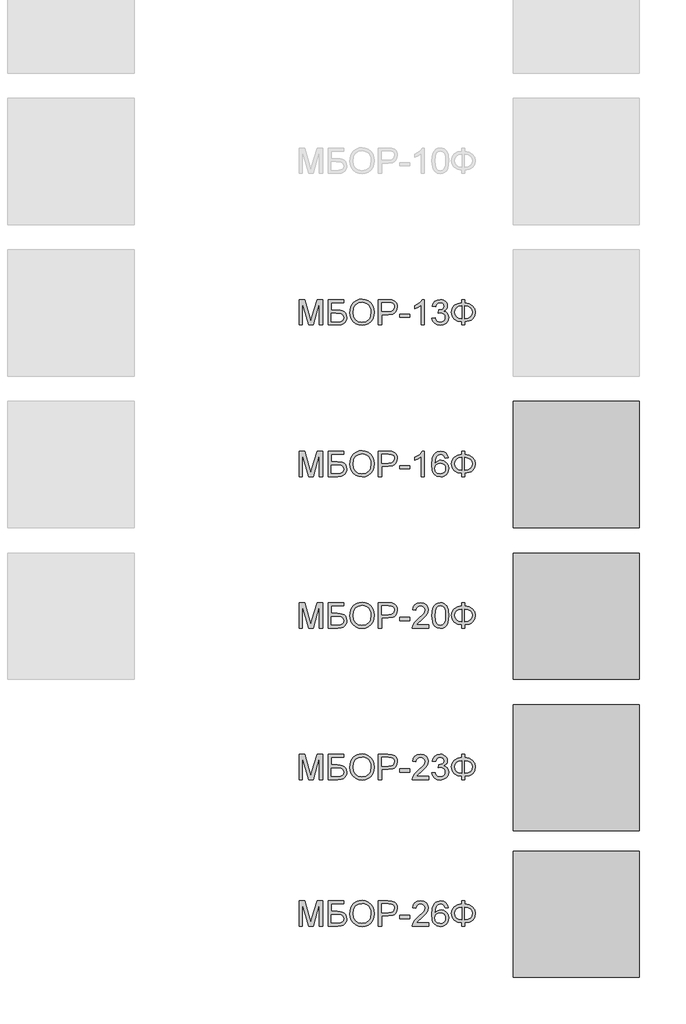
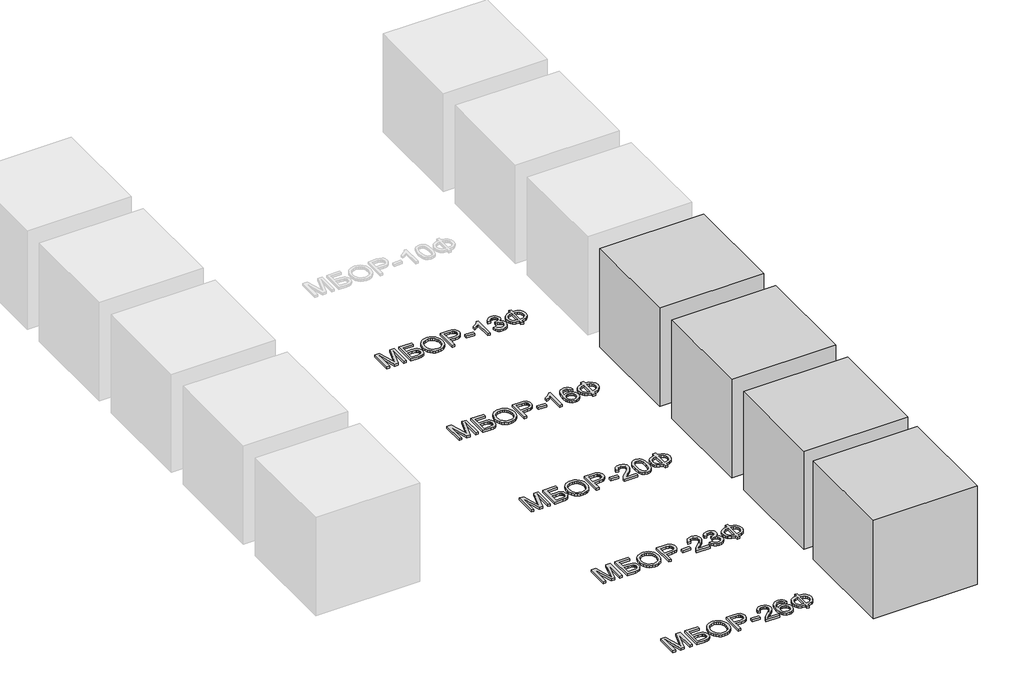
# One storey, part 25 of 35: 9 proxies.
"""IFC4 building model written with IfcOpenShell, lengths in millimetres."""

from ifc_helpers import new_model, si_unit, origin, origin_with_axes, place, context, project, spatial, polyline, outline, extrude, transform, mapped, element, save
from components import generic_models_0168a45e

model = new_model("IFC4")

# Units and contexts
model_context = context("Model", 3, world=origin())
ifc_project = project(units=[si_unit("LENGTHUNIT", "METRE", prefix="MILLI")], contexts=[model_context])

# Site, building, storey
site = spatial("IfcSite", under=ifc_project)
building = spatial("IfcBuilding", under=site)
storey = spatial("IfcBuildingStorey", under=building, Name="Этаж 01", Elevation=0.0)

# Proxies
placement = place(None, origin())
element("IfcBuildingElementProxy", 1, Name="400 мм Arial", ObjectType="400 мм Arial", at=placement, inside=storey, context=model_context, shape_type="SweptSolid", body=[
    extrude(outline(polyline([(15958.3223087, -25810.2364996), (15958.3223087, -25609.3238793), (16001.5361804, -25609.3238793), (16042.640862, -25750.933922), (16050.9304696, -25780.5116344), (16059.9067903, -25748.4813754), (16100.3247588, -25609.3238793), (16143.5386305, -25609.3238793), (16143.5386305, -25810.2364996), (16118.424553, -25810.2364996), (16118.424553, -25634.4379569), (16067.9511433, -25810.2364996), (16033.909796, -25810.2364996), (15983.4363862, -25634.4379569), (15983.4363862, -25810.2364996), (15958.3223087, -25810.2364996)])), origin_with_axes(), (0.0, 0.0, 1.0), 20.0),
    extrude(outline(polyline([(16187.4882662, -25609.3238793), (16313.0586539, -25609.3238793), (16313.0586539, -25634.4379569), (16212.6023438, -25634.4379569), (16212.6023438, -25694.083891), (16259.6421882, -25694.083891), (16283.0272204, -25695.3592153), (16301.0902263, -25699.185188), (16314.9593776, -25706.5550907), (16325.7628455, -25718.4622046), (16332.7158152, -25733.790621), (16335.0334718, -25751.4244313), (16333.3841342, -25766.2316816), (16328.4361213, -25780.0456506), (16320.2139587, -25792.1428368), (16308.7421718, -25801.7997392), (16291.0470479, -25808.1273095), (16264.154874, -25810.2364996), (16187.4882662, -25810.2364996), (16187.4882662, -25609.3238793)]), holes=[polyline([(16212.6023438, -25785.1224221), (16266.4112169, -25785.1224221), (16285.4307161, -25783.0500202), (16299.0300872, -25776.8328145), (16307.1970675, -25766.4708049), (16309.9193942, -25751.9639916), (16308.3620271, -25741.1605237), (16303.6899258, -25732.2945676), (16296.2403154, -25725.7217426), (16286.3504211, -25721.797668), (16248.5076265, -25719.1979686), (16212.6023438, -25719.1979686), (16212.6023438, -25785.1224221)])]), origin_with_axes(), (0.0, 0.0, 1.0), 20.0),
    extrude(outline(polyline([(16360.1475493, -25712.4289398), (16361.8214124, -25688.8630324), (16366.8430016, -25668.0010576), (16375.212317, -25649.8430154), (16386.9293586, -25634.3889059), (16401.2920848, -25622.0495307), (16417.5984542, -25613.2356912), (16435.8484669, -25607.9473875), (16456.0421227, -25606.1846196), (16482.3947363, -25609.4955576), (16506.0250231, -25619.4283715), (16525.6453962, -25635.2840855), (16539.9682685, -25656.3637238), (16548.72386, -25681.6494796), (16551.6423905, -25710.123546), (16548.5705759, -25738.9777572), (16539.3551319, -25764.6191322), (16524.504962, -25785.7355588), (16504.5289697, -25801.0149243), (16481.101018, -25810.2855506), (16455.8949699, -25813.3757593), (16429.1376861, -25809.9605881), (16405.3725092, -25799.7150746), (16385.8011871, -25783.565055), (16371.6254676, -25762.4363657), (16363.0170289, -25738.1254972), (16360.1475493, -25712.4289398)]), holes=[polyline([(16385.2616268, -25712.6741945), (16390.2832161, -25744.1035796), (16405.3479838, -25768.0526975), (16427.9911206, -25783.2094357), (16455.7478171, -25788.2616818), (16483.9091838, -25783.1603848), (16506.5891089, -25767.8564938), (16515.3125107, -25756.5839763), (16521.543512, -25743.1716119), (16526.528313, -25709.9273423), (16524.3945974, -25687.695007), (16517.9934507, -25668.4793042), (16507.4904197, -25652.7646116), (16493.0510514, -25641.0353073), (16475.631839, -25633.7328497), (16456.1892755, -25631.2986972), (16429.1744743, -25635.9891926), (16406.2063751, -25650.0606789), (16397.0430477, -25661.0097668), (16390.4978139, -25675.0950487), (16385.2616268, -25712.6741945)])]), origin_with_axes(), (0.0, 0.0, 1.0), 20.0),
    extrude(outline(polyline([(16586.1742471, -25810.2364996), (16586.1742471, -25609.3238793), (16660.633563, -25609.3238793), (16690.6527338, -25611.2368657), (16715.0555728, -25620.6301193), (16723.9276602, -25628.9565151), (16730.8744986, -25640.0542887), (16735.3626589, -25653.1447563), (16736.8587124, -25667.4492346), (16732.8181418, -25691.1285723), (16720.69643, -25710.85931), (16710.9889439, -25718.6277515), (16698.0287678, -25724.1766382), (16662.3503456, -25728.6157476), (16611.2883247, -25728.6157476), (16611.2883247, -25810.2364996), (16586.1742471, -25810.2364996)]), holes=[polyline([(16611.2883247, -25703.5016701), (16663.8218736, -25703.5016701), (16686.090997, -25701.1962763), (16700.8062768, -25694.2800948), (16709.0100453, -25683.1823212), (16711.7446348, -25668.3321514), (16710.1320854, -25657.0504368), (16705.2944372, -25647.5345559), (16697.832564, -25640.3731197), (16688.3473399, -25636.1547395), (16663.2332624, -25634.4379569), (16611.2883247, -25634.4379569), (16611.2883247, -25703.5016701)])]), origin_with_axes(), (0.0, 0.0, 1.0), 20.0),
    extrude(outline(polyline([(16755.6942705, -25750.5905655), (16755.6942705, -25725.4764879), (16834.1757628, -25725.4764879), (16834.1757628, -25750.5905655), (16755.6942705, -25750.5905655)])), origin_with_axes(), (0.0, 0.0, 1.0), 20.0),
    extrude(outline(polyline([(16950.3283714, -25810.2364996), (16925.2142939, -25810.2364996), (16925.2142939, -25653.6659225), (16901.4245915, -25670.6130197), (16874.9861388, -25683.2926858), (16874.9861388, -25659.5520344), (16911.7988638, -25636.0566377), (16925.2694762, -25622.481792), (16934.1415636, -25609.3238793), (16950.3283714, -25609.3238793), (16950.3283714, -25810.2364996)])), origin_with_axes(), (0.0, 0.0, 1.0), 20.0),
    extrude(outline(polyline([(17009.9743056, -25756.8690849), (17035.0883831, -25753.7298252), (17040.7108463, -25769.5119628), (17048.9452716, -25780.1682779), (17060.1963293, -25786.2383308), (17074.8686895, -25788.2616818), (17092.0855669, -25785.4780414), (17105.3783697, -25777.1271201), (17113.8764438, -25764.6681832), (17116.7091351, -25749.5604959), (17113.9009692, -25735.2192295), (17105.4764715, -25723.588027), (17092.723229, -25715.8808992), (17076.9288287, -25713.3118566), (17059.3195439, -25716.0587089), (17062.115447, -25690.9446313), (17066.1376235, -25691.2389369), (17081.1839971, -25689.4363152), (17094.6362154, -25684.0284498), (17104.1275709, -25674.8804509), (17107.291356, -25661.8574282), (17104.9982249, -25651.0110408), (17098.1188316, -25642.2125297), (17087.621932, -25636.3816001), (17074.4762821, -25634.4379569), (17061.3061066, -25636.3999942), (17050.5394269, -25642.2861061), (17042.679015, -25652.0962926), (17038.2276428, -25665.8305538), (17013.1135653, -25662.6912941), (17020.5079934, -25640.1401278), (17033.6659061, -25623.3033952), (17051.6675984, -25612.8187583), (17073.5933653, -25609.3238793), (17089.3816342, -25611.0467933), (17103.8823162, -25616.2155354), (17116.1082612, -25624.3702529), (17125.0723191, -25635.0510935), (17130.572155, -25647.3567463), (17132.4054336, -25660.3859003), (17130.6641255, -25672.5260061), (17125.4402011, -25683.5379405), (17116.807237, -25692.9189314), (17104.8388094, -25700.1662067), (17120.5596333, -25706.5183025), (17132.2092298, -25717.3340331), (17139.419717, -25732.0247875), (17141.8232127, -25750.0019543), (17137.0162213, -25774.4783697), (17122.595247, -25794.9326086), (17100.8288957, -25808.7649717), (17073.9857727, -25813.3757593), (17049.7055611, -25809.439422), (17029.9380352, -25797.6304099), (17016.1915113, -25779.567404), (17009.9743056, -25756.8690849)])), origin_with_axes(), (0.0, 0.0, 1.0), 20.0),
    extrude(outline(polyline([(17245.4187825, -25634.4379569), (17245.4187825, -25609.3238793), (17270.53286, -25609.3238793), (17270.53286, -25634.4379569), (17304.3718722, -25641.2315111), (17330.2523706, -25657.4918952), (17346.6783017, -25681.0486057), (17352.153612, -25709.7311386), (17346.8499799, -25737.9476876), (17330.9390836, -25761.5779744), (17319.2082465, -25771.0509358), (17305.2302635, -25778.1326642), (17270.53286, -25785.1224221), (17270.53286, -25810.2364996), (17245.4187825, -25810.2364996), (17245.4187825, -25785.1224221), (17213.3272098, -25779.0094496), (17187.0972235, -25763.4173844), (17176.9038266, -25752.4376397), (17169.6228288, -25739.8300171), (17163.7980305, -25709.7311386), (17169.6044347, -25679.5402895), (17176.8624399, -25666.9648566), (17187.0236471, -25656.0694182), (17213.2352393, -25640.6061117), (17245.4187825, -25634.4379569)]), holes=[polyline([(17245.4187825, -25659.5520344), (17222.5671792, -25663.5742109), (17204.5348301, -25673.5806012), (17192.8177886, -25689.1297468), (17188.912108, -25709.7801895), (17192.7687376, -25730.277348), (17204.3386264, -25745.8571505), (17222.3219246, -25755.9555112), (17245.4187825, -25760.0083446), (17245.4187825, -25659.5520344)]), polyline([(17270.53286, -25659.5520344), (17270.53286, -25760.0083446), (17294.0282568, -25755.8574094), (17311.9318472, -25745.7590486), (17323.2626127, -25730.228297), (17327.0395345, -25709.7801895), (17323.3300577, -25689.6079934), (17312.2016274, -25674.1201614), (17294.365482, -25663.9053047), (17270.53286, -25659.5520344)])]), origin_with_axes(), (0.0, 0.0, 1.0), 20.0),
])
element("IfcBuildingElementProxy", 2, Name="400 мм Arial", ObjectType="400 мм Arial", at=placement, inside=storey, context=model_context, shape_type="SweptSolid", body=[
    extrude(outline(polyline([(15958.3223087, -27010.2364996), (15958.3223087, -26809.3238793), (16001.5361804, -26809.3238793), (16042.640862, -26950.933922), (16050.9304696, -26980.5116344), (16059.9067903, -26948.4813754), (16100.3247588, -26809.3238793), (16143.5386305, -26809.3238793), (16143.5386305, -27010.2364996), (16118.424553, -27010.2364996), (16118.424553, -26834.4379569), (16067.9511433, -27010.2364996), (16033.909796, -27010.2364996), (15983.4363862, -26834.4379569), (15983.4363862, -27010.2364996), (15958.3223087, -27010.2364996)])), origin_with_axes(), (0.0, 0.0, 1.0), 20.0),
    extrude(outline(polyline([(16187.4882662, -26809.3238793), (16313.0586539, -26809.3238793), (16313.0586539, -26834.4379569), (16212.6023438, -26834.4379569), (16212.6023438, -26894.083891), (16259.6421882, -26894.083891), (16283.0272204, -26895.3592153), (16301.0902263, -26899.185188), (16314.9593776, -26906.5550907), (16325.7628455, -26918.4622046), (16332.7158152, -26933.790621), (16335.0334718, -26951.4244313), (16333.3841342, -26966.2316816), (16328.4361213, -26980.0456506), (16320.2139587, -26992.1428368), (16308.7421718, -27001.7997392), (16291.0470479, -27008.1273095), (16264.154874, -27010.2364996), (16187.4882662, -27010.2364996), (16187.4882662, -26809.3238793)]), holes=[polyline([(16212.6023438, -26985.1224221), (16266.4112169, -26985.1224221), (16285.4307161, -26983.0500202), (16299.0300872, -26976.8328145), (16307.1970675, -26966.4708049), (16309.9193942, -26951.9639916), (16308.3620271, -26941.1605237), (16303.6899258, -26932.2945676), (16296.2403154, -26925.7217426), (16286.3504211, -26921.797668), (16248.5076265, -26919.1979686), (16212.6023438, -26919.1979686), (16212.6023438, -26985.1224221)])]), origin_with_axes(), (0.0, 0.0, 1.0), 20.0),
    extrude(outline(polyline([(16360.1475493, -26912.4289398), (16361.8214124, -26888.8630324), (16366.8430016, -26868.0010576), (16375.212317, -26849.8430154), (16386.9293586, -26834.3889059), (16401.2920848, -26822.0495307), (16417.5984542, -26813.2356912), (16435.8484669, -26807.9473875), (16456.0421227, -26806.1846196), (16482.3947363, -26809.4955576), (16506.0250231, -26819.4283715), (16525.6453962, -26835.2840855), (16539.9682685, -26856.3637238), (16548.72386, -26881.6494796), (16551.6423905, -26910.123546), (16548.5705759, -26938.9777572), (16539.3551319, -26964.6191322), (16524.504962, -26985.7355588), (16504.5289697, -27001.0149243), (16481.101018, -27010.2855506), (16455.8949699, -27013.3757593), (16429.1376861, -27009.9605881), (16405.3725092, -26999.7150746), (16385.8011871, -26983.565055), (16371.6254676, -26962.4363657), (16363.0170289, -26938.1254972), (16360.1475493, -26912.4289398)]), holes=[polyline([(16385.2616268, -26912.6741945), (16390.2832161, -26944.1035796), (16405.3479838, -26968.0526975), (16427.9911206, -26983.2094357), (16455.7478171, -26988.2616818), (16483.9091838, -26983.1603848), (16506.5891089, -26967.8564938), (16515.3125107, -26956.5839763), (16521.543512, -26943.1716119), (16526.528313, -26909.9273423), (16524.3945974, -26887.695007), (16517.9934507, -26868.4793042), (16507.4904197, -26852.7646116), (16493.0510514, -26841.0353073), (16475.631839, -26833.7328497), (16456.1892755, -26831.2986972), (16429.1744743, -26835.9891926), (16406.2063751, -26850.0606789), (16397.0430477, -26861.0097668), (16390.4978139, -26875.0950487), (16385.2616268, -26912.6741945)])]), origin_with_axes(), (0.0, 0.0, 1.0), 20.0),
    extrude(outline(polyline([(16586.1742471, -27010.2364996), (16586.1742471, -26809.3238793), (16660.633563, -26809.3238793), (16690.6527338, -26811.2368657), (16715.0555728, -26820.6301193), (16723.9276602, -26828.9565151), (16730.8744986, -26840.0542887), (16735.3626589, -26853.1447563), (16736.8587124, -26867.4492346), (16732.8181418, -26891.1285723), (16720.69643, -26910.85931), (16710.9889439, -26918.6277515), (16698.0287678, -26924.1766382), (16662.3503456, -26928.6157476), (16611.2883247, -26928.6157476), (16611.2883247, -27010.2364996), (16586.1742471, -27010.2364996)]), holes=[polyline([(16611.2883247, -26903.5016701), (16663.8218736, -26903.5016701), (16686.090997, -26901.1962763), (16700.8062768, -26894.2800948), (16709.0100453, -26883.1823212), (16711.7446348, -26868.3321514), (16710.1320854, -26857.0504368), (16705.2944372, -26847.5345559), (16697.832564, -26840.3731197), (16688.3473399, -26836.1547395), (16663.2332624, -26834.4379569), (16611.2883247, -26834.4379569), (16611.2883247, -26903.5016701)])]), origin_with_axes(), (0.0, 0.0, 1.0), 20.0),
    extrude(outline(polyline([(16755.6942705, -26950.5905655), (16755.6942705, -26925.4764879), (16834.1757628, -26925.4764879), (16834.1757628, -26950.5905655), (16755.6942705, -26950.5905655)])), origin_with_axes(), (0.0, 0.0, 1.0), 20.0),
    extrude(outline(polyline([(16950.3283714, -27010.2364996), (16925.2142939, -27010.2364996), (16925.2142939, -26853.6659225), (16901.4245915, -26870.6130197), (16874.9861388, -26883.2926858), (16874.9861388, -26859.5520344), (16911.7988638, -26836.0566377), (16925.2694762, -26822.481792), (16934.1415636, -26809.3238793), (16950.3283714, -26809.3238793), (16950.3283714, -27010.2364996)])), origin_with_axes(), (0.0, 0.0, 1.0), 20.0),
    extrude(outline(polyline([(17138.683953, -26862.6912941), (17113.5698754, -26865.8305538), (17104.0539945, -26844.8858055), (17092.6619154, -26837.049919), (17078.890866, -26834.4379569), (17056.2293351, -26840.5202725), (17046.7931619, -26850.128124), (17039.0860341, -26863.3534817), (17033.8805039, -26882.0602811), (17031.9491234, -26908.1124578), (17042.0229587, -26896.358628), (17054.0956195, -26888.0751518), (17067.4926555, -26883.1639271), (17081.5396164, -26881.5268523), (17104.7407075, -26886.0027499), (17124.2139278, -26899.4304427), (17137.4208914, -26919.9459953), (17141.8232127, -26945.6854722), (17139.7508107, -26963.6687704), (17133.533605, -26980.3399562), (17123.6866303, -26994.4788875), (17110.7249213, -27004.8654225), (17095.2370893, -27011.2481751), (17077.8117455, -27013.3757593), (17049.319285, -27007.7349021), (17026.6270972, -26990.8123303), (17017.9680748, -26977.7034685), (17011.7830587, -26960.9403123), (17006.8350459, -26916.4511163), (17012.3287504, -26866.4314277), (17019.1958809, -26847.3536806), (17028.8098637, -26832.2306649), (17039.2301213, -26822.2089462), (17051.3119791, -26815.0505757), (17080.4604959, -26809.3238793), (17102.4966274, -26812.8678092), (17120.1427004, -26823.4995989), (17132.5035354, -26840.3853825), (17138.683953, -26862.6912941)]), holes=[polyline([(17031.9491234, -26945.2930648), (17037.761659, -26967.0471534), (17053.2127028, -26982.8415537), (17075.8497082, -26988.2616818), (17092.4227921, -26985.4535159), (17105.4519461, -26977.0290182), (17113.8948379, -26963.7852664), (17116.7091351, -26946.5193381), (17113.9316261, -26929.9462542), (17105.5990989, -26917.3095077), (17092.3492157, -26909.3080743), (17074.8196386, -26906.6409298), (17058.2710802, -26909.3080743), (17044.4325858, -26917.3095077), (17035.069989, -26929.6396859), (17031.9491234, -26945.2930648)])]), origin_with_axes(), (0.0, 0.0, 1.0), 20.0),
    extrude(outline(polyline([(17245.4187825, -26834.4379569), (17245.4187825, -26809.3238793), (17270.53286, -26809.3238793), (17270.53286, -26834.4379569), (17304.3718722, -26841.2315111), (17330.2523706, -26857.4918952), (17346.6783017, -26881.0486057), (17352.153612, -26909.7311386), (17346.8499799, -26937.9476876), (17330.9390836, -26961.5779744), (17319.2082465, -26971.0509358), (17305.2302635, -26978.1326642), (17270.53286, -26985.1224221), (17270.53286, -27010.2364996), (17245.4187825, -27010.2364996), (17245.4187825, -26985.1224221), (17213.3272098, -26979.0094496), (17187.0972235, -26963.4173844), (17176.9038266, -26952.4376397), (17169.6228288, -26939.8300171), (17163.7980305, -26909.7311386), (17169.6044347, -26879.5402895), (17176.8624399, -26866.9648566), (17187.0236471, -26856.0694182), (17213.2352393, -26840.6061117), (17245.4187825, -26834.4379569)]), holes=[polyline([(17245.4187825, -26859.5520344), (17222.5671792, -26863.5742109), (17204.5348301, -26873.5806012), (17192.8177886, -26889.1297468), (17188.912108, -26909.7801895), (17192.7687376, -26930.277348), (17204.3386264, -26945.8571505), (17222.3219246, -26955.9555112), (17245.4187825, -26960.0083446), (17245.4187825, -26859.5520344)]), polyline([(17270.53286, -26859.5520344), (17270.53286, -26960.0083446), (17294.0282568, -26955.8574094), (17311.9318472, -26945.7590486), (17323.2626127, -26930.228297), (17327.0395345, -26909.7801895), (17323.3300577, -26889.6079934), (17312.2016274, -26874.1201614), (17294.365482, -26863.9053047), (17270.53286, -26859.5520344)])]), origin_with_axes(), (0.0, 0.0, 1.0), 20.0),
])
element("IfcBuildingElementProxy", 3, Name="400 мм Arial", ObjectType="400 мм Arial", at=placement, inside=storey, context=model_context, shape_type="SweptSolid", body=[
    extrude(outline(polyline([(15958.3223087, -28210.2364996), (15958.3223087, -28009.3238793), (16001.5361804, -28009.3238793), (16042.640862, -28150.933922), (16050.9304696, -28180.5116344), (16059.9067903, -28148.4813754), (16100.3247588, -28009.3238793), (16143.5386305, -28009.3238793), (16143.5386305, -28210.2364996), (16118.424553, -28210.2364996), (16118.424553, -28034.4379569), (16067.9511433, -28210.2364996), (16033.909796, -28210.2364996), (15983.4363862, -28034.4379569), (15983.4363862, -28210.2364996), (15958.3223087, -28210.2364996)])), origin_with_axes(), (0.0, 0.0, 1.0), 20.0),
    extrude(outline(polyline([(16187.4882662, -28009.3238793), (16313.0586539, -28009.3238793), (16313.0586539, -28034.4379569), (16212.6023438, -28034.4379569), (16212.6023438, -28094.083891), (16259.6421882, -28094.083891), (16283.0272204, -28095.3592153), (16301.0902263, -28099.185188), (16314.9593776, -28106.5550907), (16325.7628455, -28118.4622046), (16332.7158152, -28133.790621), (16335.0334718, -28151.4244313), (16333.3841342, -28166.2316816), (16328.4361213, -28180.0456506), (16320.2139587, -28192.1428368), (16308.7421718, -28201.7997392), (16291.0470479, -28208.1273095), (16264.154874, -28210.2364996), (16187.4882662, -28210.2364996), (16187.4882662, -28009.3238793)]), holes=[polyline([(16212.6023438, -28185.1224221), (16266.4112169, -28185.1224221), (16285.4307161, -28183.0500202), (16299.0300872, -28176.8328145), (16307.1970675, -28166.4708049), (16309.9193942, -28151.9639916), (16308.3620271, -28141.1605237), (16303.6899258, -28132.2945676), (16296.2403154, -28125.7217426), (16286.3504211, -28121.797668), (16248.5076265, -28119.1979686), (16212.6023438, -28119.1979686), (16212.6023438, -28185.1224221)])]), origin_with_axes(), (0.0, 0.0, 1.0), 20.0),
    extrude(outline(polyline([(16360.1475493, -28112.4289398), (16361.8214124, -28088.8630324), (16366.8430016, -28068.0010576), (16375.212317, -28049.8430154), (16386.9293586, -28034.3889059), (16401.2920848, -28022.0495307), (16417.5984542, -28013.2356912), (16435.8484669, -28007.9473875), (16456.0421227, -28006.1846196), (16482.3947363, -28009.4955576), (16506.0250231, -28019.4283715), (16525.6453962, -28035.2840855), (16539.9682685, -28056.3637238), (16548.72386, -28081.6494796), (16551.6423905, -28110.123546), (16548.5705759, -28138.9777572), (16539.3551319, -28164.6191322), (16524.504962, -28185.7355588), (16504.5289697, -28201.0149243), (16481.101018, -28210.2855506), (16455.8949699, -28213.3757593), (16429.1376861, -28209.9605881), (16405.3725092, -28199.7150746), (16385.8011871, -28183.565055), (16371.6254676, -28162.4363657), (16363.0170289, -28138.1254972), (16360.1475493, -28112.4289398)]), holes=[polyline([(16385.2616268, -28112.6741945), (16390.2832161, -28144.1035796), (16405.3479838, -28168.0526975), (16427.9911206, -28183.2094357), (16455.7478171, -28188.2616818), (16483.9091838, -28183.1603848), (16506.5891089, -28167.8564938), (16515.3125107, -28156.5839763), (16521.543512, -28143.1716119), (16526.528313, -28109.9273423), (16524.3945974, -28087.695007), (16517.9934507, -28068.4793042), (16507.4904197, -28052.7646116), (16493.0510514, -28041.0353073), (16475.631839, -28033.7328497), (16456.1892755, -28031.2986972), (16429.1744743, -28035.9891926), (16406.2063751, -28050.0606789), (16397.0430477, -28061.0097668), (16390.4978139, -28075.0950487), (16385.2616268, -28112.6741945)])]), origin_with_axes(), (0.0, 0.0, 1.0), 20.0),
    extrude(outline(polyline([(16586.1742471, -28210.2364996), (16586.1742471, -28009.3238793), (16660.633563, -28009.3238793), (16690.6527338, -28011.2368657), (16715.0555728, -28020.6301193), (16723.9276602, -28028.9565151), (16730.8744986, -28040.0542887), (16735.3626589, -28053.1447563), (16736.8587124, -28067.4492346), (16732.8181418, -28091.1285723), (16720.69643, -28110.85931), (16710.9889439, -28118.6277515), (16698.0287678, -28124.1766382), (16662.3503456, -28128.6157476), (16611.2883247, -28128.6157476), (16611.2883247, -28210.2364996), (16586.1742471, -28210.2364996)]), holes=[polyline([(16611.2883247, -28103.5016701), (16663.8218736, -28103.5016701), (16686.090997, -28101.1962763), (16700.8062768, -28094.2800948), (16709.0100453, -28083.1823212), (16711.7446348, -28068.3321514), (16710.1320854, -28057.0504368), (16705.2944372, -28047.5345559), (16697.832564, -28040.3731197), (16688.3473399, -28036.1547395), (16663.2332624, -28034.4379569), (16611.2883247, -28034.4379569), (16611.2883247, -28103.5016701)])]), origin_with_axes(), (0.0, 0.0, 1.0), 20.0),
    extrude(outline(polyline([(16755.6942705, -28150.5905655), (16755.6942705, -28125.4764879), (16834.1757628, -28125.4764879), (16834.1757628, -28150.5905655), (16755.6942705, -28150.5905655)])), origin_with_axes(), (0.0, 0.0, 1.0), 20.0),
    extrude(outline(polyline([(16984.860228, -28185.1224221), (16984.860228, -28210.2364996), (16853.011321, -28210.2364996), (16855.7091223, -28192.9215204), (16870.9639623, -28166.2623385), (16902.4056102, -28137.1506099), (16945.7666347, -28095.3101643), (16953.8968268, -28080.8891901), (16956.6068908, -28066.8606234), (16954.050111, -28054.2851905), (16946.3797714, -28043.8312105), (16934.5891534, -28036.7862703), (16919.6715385, -28034.4379569), (16904.0058969, -28036.731088), (16891.8351342, -28043.6104813), (16883.9808536, -28054.5365765), (16881.2646582, -28068.9698135), (16856.1505807, -28065.8305538), (16862.2390277, -28041.5380794), (16875.4030717, -28023.7939045), (16894.9559998, -28012.9413856), (16920.2110988, -28009.3238793), (16945.6501387, -28013.3460558), (16965.1662786, -28025.4125853), (16977.5822959, -28043.438803), (16981.7209684, -28065.3400445), (16977.2573335, -28089.1542723), (16962.4194263, -28113.7778405), (16926.4405672, -28148.1870698), (16897.5495679, -28172.3446541), (16886.2188024, -28185.1224221), (16984.860228, -28185.1224221)])), origin_with_axes(), (0.0, 0.0, 1.0), 20.0),
    extrude(outline(polyline([(17009.9743056, -28111.3988703), (17011.8198469, -28079.2398525), (17017.356471, -28053.5923461), (17026.5289954, -28034.0639435), (17039.2822379, -28020.2622373), (17055.708169, -28012.0584688), (17075.8987591, -28009.3238793), (17091.3743284, -28010.9425601), (17105.2312169, -28015.7986025), (17116.8194997, -28023.701934), (17125.4892521, -28034.4624823), (17137.2614759, -28064.1873475), (17141.8232127, -28111.3988703), (17139.9960654, -28143.373947), (17134.5146237, -28168.9601398), (17125.3972816, -28188.5069365), (17112.6624332, -28202.3638249), (17096.1997139, -28210.6227757), (17075.8987591, -28213.3757593), (17049.8036629, -28208.5932934), (17029.9870861, -28194.2458956), (17021.2314946, -28179.1167485), (17014.9775007, -28160.265862), (17009.9743056, -28111.3988703)]), holes=[polyline([(17035.0883831, -28111.3498193), (17038.0314391, -28150.8542142), (17046.860607, -28173.7180802), (17060.0062569, -28184.6257814), (17075.8987591, -28188.2616818), (17091.7912613, -28184.6135187), (17104.9369113, -28173.6690293), (17113.7660792, -28150.7929006), (17116.7091351, -28111.3498193), (17113.864181, -28072.7344726), (17105.3293187, -28049.6927969), (17092.2081942, -28038.2516669), (17075.6044535, -28034.4379569), (17059.8836296, -28037.7979458), (17047.2530144, -28047.8779124), (17038.1295409, -28072.3543278), (17035.0883831, -28111.3498193)])]), origin_with_axes(), (0.0, 0.0, 1.0), 20.0),
    extrude(outline(polyline([(17245.4187825, -28034.4379569), (17245.4187825, -28009.3238793), (17270.53286, -28009.3238793), (17270.53286, -28034.4379569), (17304.3718722, -28041.2315111), (17330.2523706, -28057.4918952), (17346.6783017, -28081.0486057), (17352.153612, -28109.7311386), (17346.8499799, -28137.9476876), (17330.9390836, -28161.5779744), (17319.2082465, -28171.0509358), (17305.2302635, -28178.1326642), (17270.53286, -28185.1224221), (17270.53286, -28210.2364996), (17245.4187825, -28210.2364996), (17245.4187825, -28185.1224221), (17213.3272098, -28179.0094496), (17187.0972235, -28163.4173844), (17176.9038266, -28152.4376397), (17169.6228288, -28139.8300171), (17163.7980305, -28109.7311386), (17169.6044347, -28079.5402895), (17176.8624399, -28066.9648566), (17187.0236471, -28056.0694182), (17213.2352393, -28040.6061117), (17245.4187825, -28034.4379569)]), holes=[polyline([(17270.53286, -28059.5520344), (17270.53286, -28160.0083446), (17294.0282568, -28155.8574094), (17311.9318472, -28145.7590486), (17323.2626127, -28130.228297), (17327.0395345, -28109.7801895), (17323.3300577, -28089.6079934), (17312.2016274, -28074.1201614), (17294.365482, -28063.9053047), (17270.53286, -28059.5520344)]), polyline([(17245.4187825, -28059.5520344), (17222.5671792, -28063.5742109), (17204.5348301, -28073.5806012), (17192.8177886, -28089.1297468), (17188.912108, -28109.7801895), (17192.7687376, -28130.277348), (17204.3386264, -28145.8571505), (17222.3219246, -28155.9555112), (17245.4187825, -28160.0083446), (17245.4187825, -28059.5520344)])]), origin_with_axes(), (0.0, 0.0, 1.0), 20.0),
])
element("IfcBuildingElementProxy", 4, Name="400 мм Arial", ObjectType="400 мм Arial", at=placement, inside=storey, context=model_context, shape_type="SweptSolid", body=[
    extrude(outline(polyline([(15958.3223087, -29410.2364996), (15958.3223087, -29209.3238793), (16001.5361804, -29209.3238793), (16042.640862, -29350.933922), (16050.9304696, -29380.5116344), (16059.9067903, -29348.4813754), (16100.3247588, -29209.3238793), (16143.5386305, -29209.3238793), (16143.5386305, -29410.2364996), (16118.424553, -29410.2364996), (16118.424553, -29234.4379569), (16067.9511433, -29410.2364996), (16033.909796, -29410.2364996), (15983.4363862, -29234.4379569), (15983.4363862, -29410.2364996), (15958.3223087, -29410.2364996)])), origin_with_axes(), (0.0, 0.0, 1.0), 20.0),
    extrude(outline(polyline([(16187.4882662, -29209.3238793), (16313.0586539, -29209.3238793), (16313.0586539, -29234.4379569), (16212.6023438, -29234.4379569), (16212.6023438, -29294.083891), (16259.6421882, -29294.083891), (16283.0272204, -29295.3592153), (16301.0902263, -29299.185188), (16314.9593776, -29306.5550907), (16325.7628455, -29318.4622046), (16332.7158152, -29333.790621), (16335.0334718, -29351.4244313), (16333.3841342, -29366.2316816), (16328.4361213, -29380.0456506), (16320.2139587, -29392.1428368), (16308.7421718, -29401.7997392), (16291.0470479, -29408.1273095), (16264.154874, -29410.2364996), (16187.4882662, -29410.2364996), (16187.4882662, -29209.3238793)]), holes=[polyline([(16212.6023438, -29385.1224221), (16266.4112169, -29385.1224221), (16285.4307161, -29383.0500202), (16299.0300872, -29376.8328145), (16307.1970675, -29366.4708049), (16309.9193942, -29351.9639916), (16308.3620271, -29341.1605237), (16303.6899258, -29332.2945676), (16296.2403154, -29325.7217426), (16286.3504211, -29321.797668), (16248.5076265, -29319.1979686), (16212.6023438, -29319.1979686), (16212.6023438, -29385.1224221)])]), origin_with_axes(), (0.0, 0.0, 1.0), 20.0),
    extrude(outline(polyline([(16360.1475493, -29312.4289398), (16361.8214124, -29288.8630324), (16366.8430016, -29268.0010576), (16375.212317, -29249.8430154), (16386.9293586, -29234.3889059), (16401.2920848, -29222.0495307), (16417.5984542, -29213.2356912), (16435.8484669, -29207.9473875), (16456.0421227, -29206.1846196), (16482.3947363, -29209.4955576), (16506.0250231, -29219.4283715), (16525.6453962, -29235.2840855), (16539.9682685, -29256.3637238), (16548.72386, -29281.6494796), (16551.6423905, -29310.123546), (16548.5705759, -29338.9777572), (16539.3551319, -29364.6191322), (16524.504962, -29385.7355588), (16504.5289697, -29401.0149243), (16481.101018, -29410.2855506), (16455.8949699, -29413.3757593), (16429.1376861, -29409.9605881), (16405.3725092, -29399.7150746), (16385.8011871, -29383.565055), (16371.6254676, -29362.4363657), (16363.0170289, -29338.1254972), (16360.1475493, -29312.4289398)]), holes=[polyline([(16385.2616268, -29312.6741945), (16390.2832161, -29344.1035796), (16405.3479838, -29368.0526975), (16427.9911206, -29383.2094357), (16455.7478171, -29388.2616818), (16483.9091838, -29383.1603848), (16506.5891089, -29367.8564938), (16515.3125107, -29356.5839763), (16521.543512, -29343.1716119), (16526.528313, -29309.9273423), (16524.3945974, -29287.695007), (16517.9934507, -29268.4793042), (16507.4904197, -29252.7646116), (16493.0510514, -29241.0353073), (16475.631839, -29233.7328497), (16456.1892755, -29231.2986972), (16429.1744743, -29235.9891926), (16406.2063751, -29250.0606789), (16397.0430477, -29261.0097668), (16390.4978139, -29275.0950487), (16385.2616268, -29312.6741945)])]), origin_with_axes(), (0.0, 0.0, 1.0), 20.0),
    extrude(outline(polyline([(16586.1742471, -29410.2364996), (16586.1742471, -29209.3238793), (16660.633563, -29209.3238793), (16690.6527338, -29211.2368657), (16715.0555728, -29220.6301193), (16723.9276602, -29228.9565151), (16730.8744986, -29240.0542887), (16735.3626589, -29253.1447563), (16736.8587124, -29267.4492346), (16732.8181418, -29291.1285723), (16720.69643, -29310.85931), (16710.9889439, -29318.6277515), (16698.0287678, -29324.1766382), (16662.3503456, -29328.6157476), (16611.2883247, -29328.6157476), (16611.2883247, -29410.2364996), (16586.1742471, -29410.2364996)]), holes=[polyline([(16611.2883247, -29303.5016701), (16663.8218736, -29303.5016701), (16686.090997, -29301.1962763), (16700.8062768, -29294.2800948), (16709.0100453, -29283.1823212), (16711.7446348, -29268.3321514), (16710.1320854, -29257.0504368), (16705.2944372, -29247.5345559), (16697.832564, -29240.3731197), (16688.3473399, -29236.1547395), (16663.2332624, -29234.4379569), (16611.2883247, -29234.4379569), (16611.2883247, -29303.5016701)])]), origin_with_axes(), (0.0, 0.0, 1.0), 20.0),
    extrude(outline(polyline([(16755.6942705, -29350.5905655), (16755.6942705, -29325.4764879), (16834.1757628, -29325.4764879), (16834.1757628, -29350.5905655), (16755.6942705, -29350.5905655)])), origin_with_axes(), (0.0, 0.0, 1.0), 20.0),
    extrude(outline(polyline([(16984.860228, -29385.1224221), (16984.860228, -29410.2364996), (16853.011321, -29410.2364996), (16855.7091223, -29392.9215204), (16870.9639623, -29366.2623385), (16902.4056102, -29337.1506099), (16945.7666347, -29295.3101643), (16953.8968268, -29280.8891901), (16956.6068908, -29266.8606234), (16954.050111, -29254.2851905), (16946.3797714, -29243.8312105), (16934.5891534, -29236.7862703), (16919.6715385, -29234.4379569), (16904.0058969, -29236.731088), (16891.8351342, -29243.6104813), (16883.9808536, -29254.5365765), (16881.2646582, -29268.9698135), (16856.1505807, -29265.8305538), (16862.2390277, -29241.5380794), (16875.4030717, -29223.7939045), (16894.9559998, -29212.9413856), (16920.2110988, -29209.3238793), (16945.6501387, -29213.3460558), (16965.1662786, -29225.4125853), (16977.5822959, -29243.438803), (16981.7209684, -29265.3400445), (16977.2573335, -29289.1542723), (16962.4194263, -29313.7778405), (16926.4405672, -29348.1870698), (16897.5495679, -29372.3446541), (16886.2188024, -29385.1224221), (16984.860228, -29385.1224221)])), origin_with_axes(), (0.0, 0.0, 1.0), 20.0),
    extrude(outline(polyline([(17009.9743056, -29356.8690849), (17035.0883831, -29353.7298252), (17040.7108463, -29369.5119628), (17048.9452716, -29380.1682779), (17060.1963293, -29386.2383308), (17074.8686895, -29388.2616818), (17092.0855669, -29385.4780414), (17105.3783697, -29377.1271201), (17113.8764438, -29364.6681832), (17116.7091351, -29349.5604959), (17113.9009692, -29335.2192295), (17105.4764715, -29323.588027), (17092.723229, -29315.8808992), (17076.9288287, -29313.3118566), (17059.3195439, -29316.0587089), (17062.115447, -29290.9446313), (17066.1376235, -29291.2389369), (17081.1839971, -29289.4363152), (17094.6362154, -29284.0284498), (17104.1275709, -29274.8804509), (17107.291356, -29261.8574282), (17104.9982249, -29251.0110408), (17098.1188316, -29242.2125297), (17087.621932, -29236.3816001), (17074.4762821, -29234.4379569), (17061.3061066, -29236.3999942), (17050.5394269, -29242.2861061), (17042.679015, -29252.0962926), (17038.2276428, -29265.8305538), (17013.1135653, -29262.6912941), (17020.5079934, -29240.1401278), (17033.6659061, -29223.3033952), (17051.6675984, -29212.8187583), (17073.5933653, -29209.3238793), (17089.3816342, -29211.0467933), (17103.8823162, -29216.2155354), (17116.1082612, -29224.3702529), (17125.0723191, -29235.0510935), (17130.572155, -29247.3567463), (17132.4054336, -29260.3859003), (17130.6641255, -29272.5260061), (17125.4402011, -29283.5379405), (17116.807237, -29292.9189314), (17104.8388094, -29300.1662067), (17120.5596333, -29306.5183025), (17132.2092298, -29317.3340331), (17139.419717, -29332.0247875), (17141.8232127, -29350.0019543), (17137.0162213, -29374.4783697), (17122.595247, -29394.9326086), (17100.8288957, -29408.7649717), (17073.9857727, -29413.3757593), (17049.7055611, -29409.439422), (17029.9380352, -29397.6304099), (17016.1915113, -29379.567404), (17009.9743056, -29356.8690849)])), origin_with_axes(), (0.0, 0.0, 1.0), 20.0),
    extrude(outline(polyline([(17245.4187825, -29234.4379569), (17245.4187825, -29209.3238793), (17270.53286, -29209.3238793), (17270.53286, -29234.4379569), (17304.3718722, -29241.2315111), (17330.2523706, -29257.4918952), (17346.6783017, -29281.0486057), (17352.153612, -29309.7311386), (17346.8499799, -29337.9476876), (17330.9390836, -29361.5779744), (17319.2082465, -29371.0509358), (17305.2302635, -29378.1326642), (17270.53286, -29385.1224221), (17270.53286, -29410.2364996), (17245.4187825, -29410.2364996), (17245.4187825, -29385.1224221), (17213.3272098, -29379.0094496), (17187.0972235, -29363.4173844), (17176.9038266, -29352.4376397), (17169.6228288, -29339.8300171), (17163.7980305, -29309.7311386), (17169.6044347, -29279.5402895), (17176.8624399, -29266.9648566), (17187.0236471, -29256.0694182), (17213.2352393, -29240.6061117), (17245.4187825, -29234.4379569)]), holes=[polyline([(17270.53286, -29259.5520344), (17270.53286, -29360.0083446), (17294.0282568, -29355.8574094), (17311.9318472, -29345.7590486), (17323.2626127, -29330.228297), (17327.0395345, -29309.7801895), (17323.3300577, -29289.6079934), (17312.2016274, -29274.1201614), (17294.365482, -29263.9053047), (17270.53286, -29259.5520344)]), polyline([(17245.4187825, -29259.5520344), (17222.5671792, -29263.5742109), (17204.5348301, -29273.5806012), (17192.8177886, -29289.1297468), (17188.912108, -29309.7801895), (17192.7687376, -29330.277348), (17204.3386264, -29345.8571505), (17222.3219246, -29355.9555112), (17245.4187825, -29360.0083446), (17245.4187825, -29259.5520344)])]), origin_with_axes(), (0.0, 0.0, 1.0), 20.0),
])
element("IfcBuildingElementProxy", 5, Name="400 мм Arial", ObjectType="400 мм Arial", at=placement, inside=storey, context=model_context, shape_type="SweptSolid", body=[
    extrude(outline(polyline([(15958.3223087, -30570.2364996), (15958.3223087, -30369.3238793), (16001.5361804, -30369.3238793), (16042.640862, -30510.933922), (16050.9304696, -30540.5116344), (16059.9067903, -30508.4813754), (16100.3247588, -30369.3238793), (16143.5386305, -30369.3238793), (16143.5386305, -30570.2364996), (16118.424553, -30570.2364996), (16118.424553, -30394.4379569), (16067.9511433, -30570.2364996), (16033.909796, -30570.2364996), (15983.4363862, -30394.4379569), (15983.4363862, -30570.2364996), (15958.3223087, -30570.2364996)])), origin_with_axes(), (0.0, 0.0, 1.0), 20.0),
    extrude(outline(polyline([(16187.4882662, -30369.3238793), (16313.0586539, -30369.3238793), (16313.0586539, -30394.4379569), (16212.6023438, -30394.4379569), (16212.6023438, -30454.083891), (16259.6421882, -30454.083891), (16283.0272204, -30455.3592153), (16301.0902263, -30459.185188), (16314.9593776, -30466.5550907), (16325.7628455, -30478.4622046), (16332.7158152, -30493.790621), (16335.0334718, -30511.4244313), (16333.3841342, -30526.2316816), (16328.4361213, -30540.0456506), (16320.2139587, -30552.1428368), (16308.7421718, -30561.7997392), (16291.0470479, -30568.1273095), (16264.154874, -30570.2364996), (16187.4882662, -30570.2364996), (16187.4882662, -30369.3238793)]), holes=[polyline([(16212.6023438, -30545.1224221), (16266.4112169, -30545.1224221), (16285.4307161, -30543.0500202), (16299.0300872, -30536.8328145), (16307.1970675, -30526.4708049), (16309.9193942, -30511.9639916), (16308.3620271, -30501.1605237), (16303.6899258, -30492.2945676), (16296.2403154, -30485.7217426), (16286.3504211, -30481.797668), (16248.5076265, -30479.1979686), (16212.6023438, -30479.1979686), (16212.6023438, -30545.1224221)])]), origin_with_axes(), (0.0, 0.0, 1.0), 20.0),
    extrude(outline(polyline([(16360.1475493, -30472.4289398), (16361.8214124, -30448.8630324), (16366.8430016, -30428.0010576), (16375.212317, -30409.8430154), (16386.9293586, -30394.3889059), (16401.2920848, -30382.0495307), (16417.5984542, -30373.2356912), (16435.8484669, -30367.9473875), (16456.0421227, -30366.1846196), (16482.3947363, -30369.4955576), (16506.0250231, -30379.4283715), (16525.6453962, -30395.2840855), (16539.9682685, -30416.3637238), (16548.72386, -30441.6494796), (16551.6423905, -30470.123546), (16548.5705759, -30498.9777572), (16539.3551319, -30524.6191322), (16524.504962, -30545.7355588), (16504.5289697, -30561.0149243), (16481.101018, -30570.2855506), (16455.8949699, -30573.3757593), (16429.1376861, -30569.9605881), (16405.3725092, -30559.7150746), (16385.8011871, -30543.565055), (16371.6254676, -30522.4363657), (16363.0170289, -30498.1254972), (16360.1475493, -30472.4289398)]), holes=[polyline([(16385.2616268, -30472.6741945), (16390.2832161, -30504.1035796), (16405.3479838, -30528.0526975), (16427.9911206, -30543.2094357), (16455.7478171, -30548.2616818), (16483.9091838, -30543.1603848), (16506.5891089, -30527.8564938), (16515.3125107, -30516.5839763), (16521.543512, -30503.1716119), (16526.528313, -30469.9273423), (16524.3945974, -30447.695007), (16517.9934507, -30428.4793042), (16507.4904197, -30412.7646116), (16493.0510514, -30401.0353073), (16475.631839, -30393.7328497), (16456.1892755, -30391.2986972), (16429.1744743, -30395.9891926), (16406.2063751, -30410.0606789), (16397.0430477, -30421.0097668), (16390.4978139, -30435.0950487), (16385.2616268, -30472.6741945)])]), origin_with_axes(), (0.0, 0.0, 1.0), 20.0),
    extrude(outline(polyline([(16586.1742471, -30570.2364996), (16586.1742471, -30369.3238793), (16660.633563, -30369.3238793), (16690.6527338, -30371.2368657), (16715.0555728, -30380.6301193), (16723.9276602, -30388.9565151), (16730.8744986, -30400.0542887), (16735.3626589, -30413.1447563), (16736.8587124, -30427.4492346), (16732.8181418, -30451.1285723), (16720.69643, -30470.85931), (16710.9889439, -30478.6277515), (16698.0287678, -30484.1766382), (16662.3503456, -30488.6157476), (16611.2883247, -30488.6157476), (16611.2883247, -30570.2364996), (16586.1742471, -30570.2364996)]), holes=[polyline([(16611.2883247, -30463.5016701), (16663.8218736, -30463.5016701), (16686.090997, -30461.1962763), (16700.8062768, -30454.2800948), (16709.0100453, -30443.1823212), (16711.7446348, -30428.3321514), (16710.1320854, -30417.0504368), (16705.2944372, -30407.5345559), (16697.832564, -30400.3731197), (16688.3473399, -30396.1547395), (16663.2332624, -30394.4379569), (16611.2883247, -30394.4379569), (16611.2883247, -30463.5016701)])]), origin_with_axes(), (0.0, 0.0, 1.0), 20.0),
    extrude(outline(polyline([(16755.6942705, -30510.5905655), (16755.6942705, -30485.4764879), (16834.1757628, -30485.4764879), (16834.1757628, -30510.5905655), (16755.6942705, -30510.5905655)])), origin_with_axes(), (0.0, 0.0, 1.0), 20.0),
    extrude(outline(polyline([(16984.860228, -30545.1224221), (16984.860228, -30570.2364996), (16853.011321, -30570.2364996), (16855.7091223, -30552.9215204), (16870.9639623, -30526.2623385), (16902.4056102, -30497.1506099), (16945.7666347, -30455.3101643), (16953.8968268, -30440.8891901), (16956.6068908, -30426.8606234), (16954.050111, -30414.2851905), (16946.3797714, -30403.8312105), (16934.5891534, -30396.7862703), (16919.6715385, -30394.4379569), (16904.0058969, -30396.731088), (16891.8351342, -30403.6104813), (16883.9808536, -30414.5365765), (16881.2646582, -30428.9698135), (16856.1505807, -30425.8305538), (16862.2390277, -30401.5380794), (16875.4030717, -30383.7939045), (16894.9559998, -30372.9413856), (16920.2110988, -30369.3238793), (16945.6501387, -30373.3460558), (16965.1662786, -30385.4125853), (16977.5822959, -30403.438803), (16981.7209684, -30425.3400445), (16977.2573335, -30449.1542723), (16962.4194263, -30473.7778405), (16926.4405672, -30508.1870698), (16897.5495679, -30532.3446541), (16886.2188024, -30545.1224221), (16984.860228, -30545.1224221)])), origin_with_axes(), (0.0, 0.0, 1.0), 20.0),
    extrude(outline(polyline([(17138.683953, -30422.6912941), (17113.5698754, -30425.8305538), (17104.0539945, -30404.8858055), (17092.6619154, -30397.049919), (17078.890866, -30394.4379569), (17056.2293351, -30400.5202725), (17046.7931619, -30410.128124), (17039.0860341, -30423.3534817), (17033.8805039, -30442.0602811), (17031.9491234, -30468.1124578), (17042.0229587, -30456.358628), (17054.0956195, -30448.0751518), (17067.4926555, -30443.1639271), (17081.5396164, -30441.5268523), (17104.7407075, -30446.0027499), (17124.2139278, -30459.4304427), (17137.4208914, -30479.9459953), (17141.8232127, -30505.6854722), (17139.7508107, -30523.6687704), (17133.533605, -30540.3399562), (17123.6866303, -30554.4788875), (17110.7249213, -30564.8654225), (17095.2370893, -30571.2481751), (17077.8117455, -30573.3757593), (17049.319285, -30567.7349021), (17026.6270972, -30550.8123303), (17017.9680748, -30537.7034685), (17011.7830587, -30520.9403123), (17006.8350459, -30476.4511163), (17012.3287504, -30426.4314277), (17019.1958809, -30407.3536806), (17028.8098637, -30392.2306649), (17039.2301213, -30382.2089462), (17051.3119791, -30375.0505757), (17080.4604959, -30369.3238793), (17102.4966274, -30372.8678092), (17120.1427004, -30383.4995989), (17132.5035354, -30400.3853825), (17138.683953, -30422.6912941)]), holes=[polyline([(17031.9491234, -30505.2930648), (17037.761659, -30527.0471534), (17053.2127028, -30542.8415537), (17075.8497082, -30548.2616818), (17092.4227921, -30545.4535159), (17105.4519461, -30537.0290182), (17113.8948379, -30523.7852664), (17116.7091351, -30506.5193381), (17113.9316261, -30489.9462542), (17105.5990989, -30477.3095077), (17092.3492157, -30469.3080743), (17074.8196386, -30466.6409298), (17058.2710802, -30469.3080743), (17044.4325858, -30477.3095077), (17035.069989, -30489.6396859), (17031.9491234, -30505.2930648)])]), origin_with_axes(), (0.0, 0.0, 1.0), 20.0),
    extrude(outline(polyline([(17245.4187825, -30394.4379569), (17245.4187825, -30369.3238793), (17270.53286, -30369.3238793), (17270.53286, -30394.4379569), (17304.3718722, -30401.2315111), (17330.2523706, -30417.4918952), (17346.6783017, -30441.0486057), (17352.153612, -30469.7311386), (17346.8499799, -30497.9476876), (17330.9390836, -30521.5779744), (17319.2082465, -30531.0509358), (17305.2302635, -30538.1326642), (17270.53286, -30545.1224221), (17270.53286, -30570.2364996), (17245.4187825, -30570.2364996), (17245.4187825, -30545.1224221), (17213.3272098, -30539.0094496), (17187.0972235, -30523.4173844), (17176.9038266, -30512.4376397), (17169.6228288, -30499.8300171), (17163.7980305, -30469.7311386), (17169.6044347, -30439.5402895), (17176.8624399, -30426.9648566), (17187.0236471, -30416.0694182), (17213.2352393, -30400.6061117), (17245.4187825, -30394.4379569)]), holes=[polyline([(17270.53286, -30419.5520344), (17270.53286, -30520.0083446), (17294.0282568, -30515.8574094), (17311.9318472, -30505.7590486), (17323.2626127, -30490.228297), (17327.0395345, -30469.7801895), (17323.3300577, -30449.6079934), (17312.2016274, -30434.1201614), (17294.365482, -30423.9053047), (17270.53286, -30419.5520344)]), polyline([(17245.4187825, -30419.5520344), (17222.5671792, -30423.5742109), (17204.5348301, -30433.5806012), (17192.8177886, -30449.1297468), (17188.912108, -30469.7801895), (17192.7687376, -30490.277348), (17204.3386264, -30505.8571505), (17222.3219246, -30515.9555112), (17245.4187825, -30520.0083446), (17245.4187825, -30419.5520344)])]), origin_with_axes(), (0.0, 0.0, 1.0), 20.0),
])
generic_models_shape = generic_models_0168a45e(model_context)
element("IfcBuildingElementProxy", 6, Name="Куб(материал) : 1000х1000", ObjectType="Куб(материал) : 1000х1000", at=placement, inside=storey, context=model_context, shape_type="MappedRepresentation", body=[
    mapped(generic_models_shape, transform((18651.5160466, -26416.2975606, 0.0), x_axis=(1.0, 0.0, 0.0), y_axis=(0.0, 1.0, 0.0), z_axis=(0.0, 0.0, 1.0))),
])
element("IfcBuildingElementProxy", 7, Name="Куб(материал) : 1000х1000", ObjectType="Куб(материал) : 1000х1000", at=placement, inside=storey, context=model_context, shape_type="MappedRepresentation", body=[
    mapped(generic_models_shape, transform((18651.5160466, -27616.2975606, 0.0), x_axis=(1.0, 0.0, 0.0), y_axis=(0.0, 1.0, 0.0), z_axis=(0.0, 0.0, 1.0))),
])
element("IfcBuildingElementProxy", 8, Name="Куб(материал) : 1000х1000", ObjectType="Куб(материал) : 1000х1000", at=placement, inside=storey, context=model_context, shape_type="MappedRepresentation", body=[
    mapped(generic_models_shape, transform((18651.5160466, -28816.2975606, 0.0), x_axis=(1.0, 0.0, 0.0), y_axis=(0.0, 1.0, 0.0), z_axis=(0.0, 0.0, 1.0))),
])
element("IfcBuildingElementProxy", 9, Name="Куб(материал) : 1000х1000", ObjectType="Куб(материал) : 1000х1000", at=placement, inside=storey, context=model_context, shape_type="MappedRepresentation", body=[
    mapped(generic_models_shape, transform((18651.5160466, -29976.2975606, 0.0), x_axis=(1.0, 0.0, 0.0), y_axis=(0.0, 1.0, 0.0), z_axis=(0.0, 0.0, 1.0))),
])

save(model, "model.ifc")
